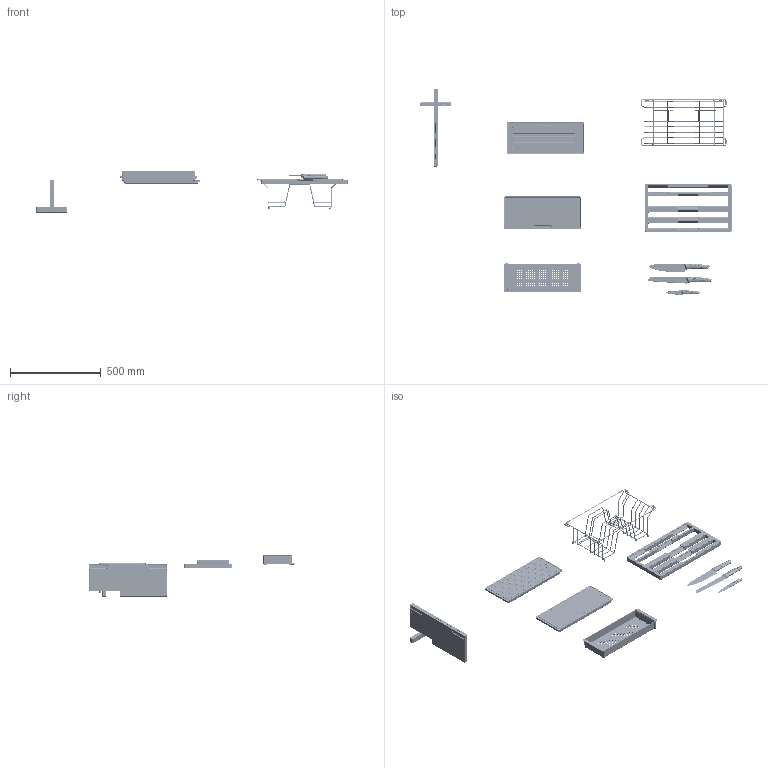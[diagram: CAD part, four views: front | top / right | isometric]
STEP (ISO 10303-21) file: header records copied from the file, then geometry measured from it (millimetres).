
FILE_DESCRIPTION(/* description */ (''),/* implementation_level */ '2;1');
FILE_NAME(/* name */ '3D001_Sinks_Box Center_BWX 220-54-27 SBR',/* time_stamp */ '2026-06-30T14:58:52+02:00',/* author */ (''),/* organization */ (''),/* preprocessor_version */ 'ST-DEVELOPER v19.2',/* originating_system */ 'Rhino 8.31',/* authorisation */ '');
FILE_SCHEMA (('CONFIG_CONTROL_DESIGN'));
Products named in the file (27): Document; Knife FK_03 OK; 112.0548.292_Cover; 20111940_iam_000; 20111936_IPT_000; 20111938_IPT_000; 20111972_IPT_000; 20111975_IPT_00023; 20111973_IPT_000; 20111971_IPT_000; 112.0539.134_Wood-ChB; 20111976_IAM_000; 20111965_IPT_000; 20111975_IPT_0002; 20116747_iam_000; 20110328_IPT_000; 20116745_IPT_000; 20116746_IPT_000; 112.0539.120_Chopping_board; 20111978_iam_000; 20111966_IPT_000; 20111975_IPT_000; 112.0539.138_Wire-rack; 20111995_IAM_000; 20111994_IPT_000; 20110440_IPT_000; 20110323_IPT_000
Bounding box: 1715.65 x 1136.91 x 232.3 mm (x, y, z)
Volume: 4327183 mm3; surface area: 1703240.8 mm2
Topology: 46 solids, 49 shells, 12309 faces, 30427 edges, 18313 vertices
Faces by surface type: bspline 5349, cylinder 3886, plane 3074
Full cylindrical faces by diameter (mm): 3.8 x4, 3.9 x4, 4 x18, 5 x98, 5.05 x4, 6 x2, 10 x4
Entity records: 702066 total; most frequent: CARTESIAN_POINT 478131, ORIENTED_EDGE 56973, EDGE_CURVE 28504, DIRECTION 23468, B_SPLINE_CURVE_WITH_KNOTS 18414, VERTEX_POINT 17285, AXIS2_PLACEMENT_3D 15014, EDGE_LOOP 12485
